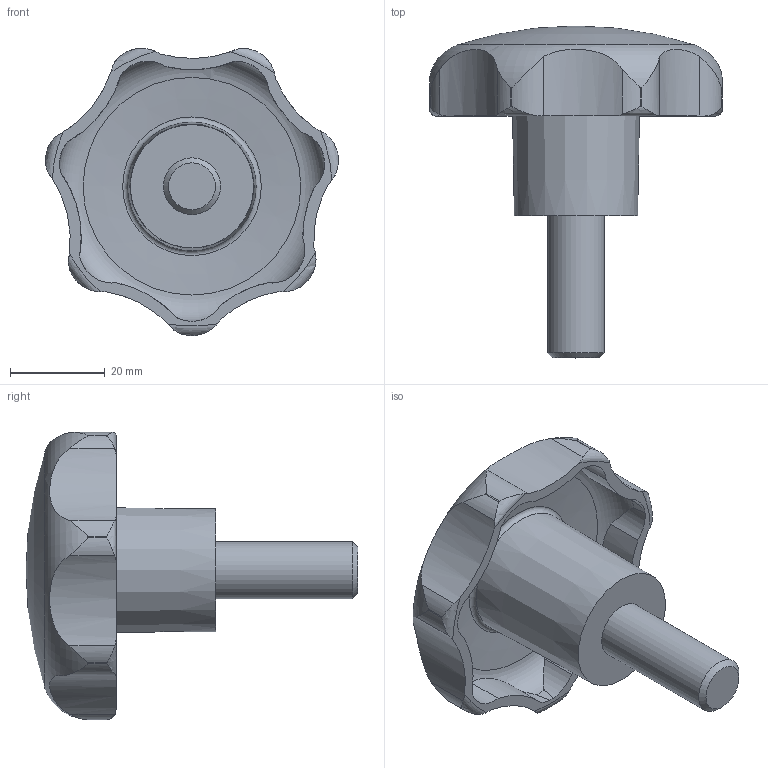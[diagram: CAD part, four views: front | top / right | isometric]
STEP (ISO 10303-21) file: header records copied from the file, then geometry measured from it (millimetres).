
FILE_DESCRIPTION( ( 'STEP AP203' ), '1' );
FILE_NAME( 'C:/Temp/Ganter_Step_05_03_2020/data/2_2/gn_6336_4/gn_6336_4_st/Star knob GN 6336.4-ST-63-M12-30.stp', '2020-03-05T12:07:44', ( 'License CC BY-ND 4.0' ), ( 'CADENAS' ), ' ', 'PARTsolutions', ' ' );
FILE_SCHEMA( ( 'CONFIG_CONTROL_DESIGN' ) );
Length unit declared in the file: millimetre
Products named in the file (1): _Star knob GN 6336.4-ST-63-M12-30
Bounding box: 61.76 x 70 x 60.57 mm (x, y, z)
Volume: 42521.7 mm3; surface area: 12824.9 mm2
Topology: 1 solids, 1 shells, 74 faces, 208 edges, 137 vertices
Faces by surface type: cylinder 50, torus 10, cone 10, plane 3, sphere 1
Full cylindrical faces by diameter (mm): 12 x1
Entity records: 3320 total; most frequent: CARTESIAN_POINT 1487, ORIENTED_EDGE 394, DIRECTION 350, EDGE_CURVE 197, AXIS2_PLACEMENT_3D 154, VERTEX_POINT 135, EDGE_LOOP 83, CIRCLE 79
